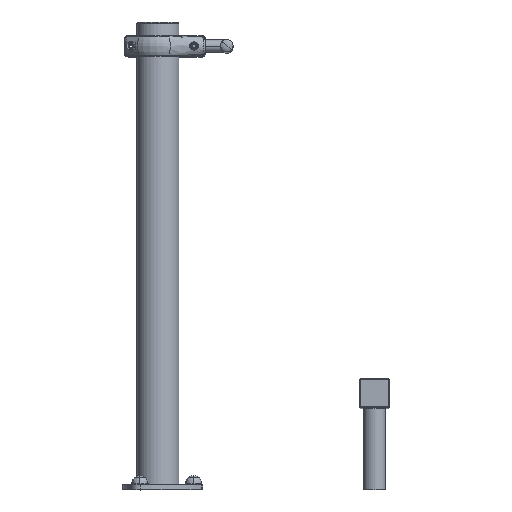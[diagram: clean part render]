
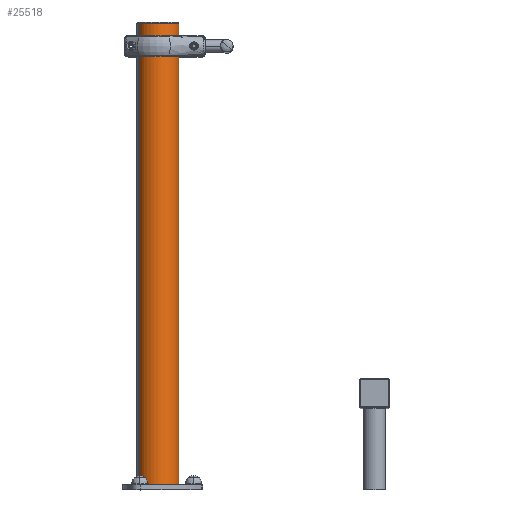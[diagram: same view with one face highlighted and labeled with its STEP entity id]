
A CAD part, top view. The second image highlights one B-rep face of the part: STEP entity #25518.
In plain terms, the highlighted cylindrical face has radius 57.15 mm (diameter 114.3 mm), a partial arc.
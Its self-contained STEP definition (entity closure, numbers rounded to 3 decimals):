
#458 = CARTESIAN_POINT ( 'NONE',  ( -586.75, 1262., 500. ) ) ;
#1213 = CARTESIAN_POINT ( 'NONE',  ( -586.75, 12., 500. ) ) ;
#1406 = EDGE_CURVE ( 'NONE', #23175, #6184, #24669, .T. ) ;
#2700 = ORIENTED_EDGE ( 'NONE', *, *, #1406, .T. ) ;
#3081 = CYLINDRICAL_SURFACE ( 'NONE', #26836, 57.15 ) ;
#3334 = CARTESIAN_POINT ( 'NONE',  ( -586.75, 12., 500. ) ) ;
#3390 = VERTEX_POINT ( 'NONE', #28260 ) ;
#3518 = DIRECTION ( 'NONE',  ( -0.866, 0., 0.5 ) ) ;
#4802 = CIRCLE ( 'NONE', #24890, 57.15 ) ;
#5464 = DIRECTION ( 'NONE',  ( 0., 1., 0. ) ) ;
#6184 = VERTEX_POINT ( 'NONE', #14795 ) ;
#6460 = EDGE_CURVE ( 'NONE', #23175, #28038, #22889, .T. ) ;
#7812 = DIRECTION ( 'NONE',  ( 0., 1., 0. ) ) ;
#7957 = ORIENTED_EDGE ( 'NONE', *, *, #13533, .T. ) ;
#9347 = DIRECTION ( 'NONE',  ( 0.866, 0., -0.5 ) ) ;
#9687 = EDGE_CURVE ( 'NONE', #28038, #3390, #16326, .T. ) ;
#11805 = VECTOR ( 'NONE', #20229, 1000. ) ;
#13240 = CARTESIAN_POINT ( 'NONE',  ( -537.257, 12., 471.425 ) ) ;
#13533 = EDGE_CURVE ( 'NONE', #6184, #3390, #4802, .T. ) ;
#14795 = CARTESIAN_POINT ( 'NONE',  ( -537.257, 1262., 471.425 ) ) ;
#15307 = EDGE_LOOP ( 'NONE', ( #23498, #2700, #7957, #19507 ) ) ;
#16116 = FACE_OUTER_BOUND ( 'NONE', #15307, .T. ) ;
#16326 = LINE ( 'NONE', #25057, #23898 ) ;
#17923 = CARTESIAN_POINT ( 'NONE',  ( -537.257, 12., 471.425 ) ) ;
#18196 = DIRECTION ( 'NONE',  ( 0., -1., 0. ) ) ;
#19507 = ORIENTED_EDGE ( 'NONE', *, *, #9687, .F. ) ;
#20229 = DIRECTION ( 'NONE',  ( 0., 1., 0. ) ) ;
#20628 = DIRECTION ( 'NONE',  ( 0., -1., 0. ) ) ;
#22419 = AXIS2_PLACEMENT_3D ( 'NONE', #3334, #20628, #9347 ) ;
#22889 = CIRCLE ( 'NONE', #22419, 57.15 ) ;
#23175 = VERTEX_POINT ( 'NONE', #17923 ) ;
#23498 = ORIENTED_EDGE ( 'NONE', *, *, #6460, .F. ) ;
#23898 = VECTOR ( 'NONE', #5464, 1000. ) ;
#24669 = LINE ( 'NONE', #13240, #11805 ) ;
#24890 = AXIS2_PLACEMENT_3D ( 'NONE', #458, #18196, #26902 ) ;
#25057 = CARTESIAN_POINT ( 'NONE',  ( -636.243, 12., 528.575 ) ) ;
#25518 = ADVANCED_FACE ( 'NONE', ( #16116 ), #3081, .T. ) ;
#26836 = AXIS2_PLACEMENT_3D ( 'NONE', #1213, #7812, #3518 ) ;
#26902 = DIRECTION ( 'NONE',  ( 0.866, 0., -0.5 ) ) ;
#28038 = VERTEX_POINT ( 'NONE', #28145 ) ;
#28145 = CARTESIAN_POINT ( 'NONE',  ( -636.243, 12., 528.575 ) ) ;
#28260 = CARTESIAN_POINT ( 'NONE',  ( -636.243, 1262., 528.575 ) ) ;
